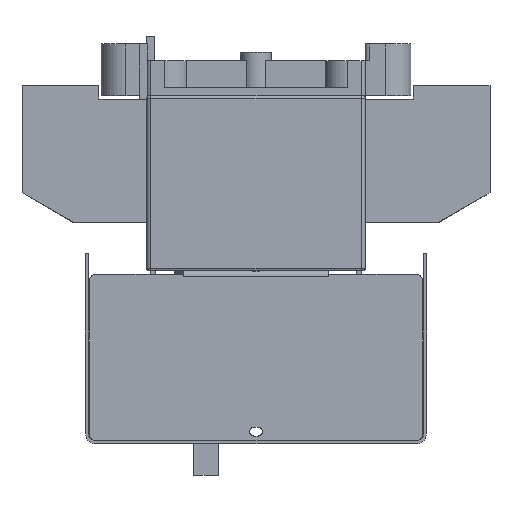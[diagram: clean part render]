
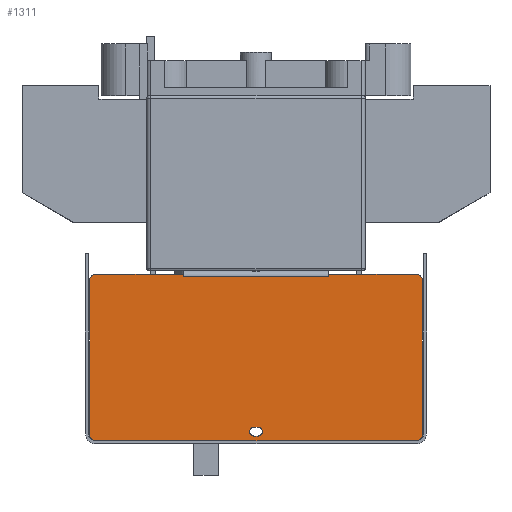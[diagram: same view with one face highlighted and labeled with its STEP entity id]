
A CAD part, left-side view. The second image highlights one B-rep face of the part: STEP entity #1311.
In plain terms, the highlighted planar face has unit normal (-1, 0, 0).
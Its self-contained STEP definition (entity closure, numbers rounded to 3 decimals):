
#170=FACE_BOUND('',#4569,.T.);
#171=FACE_BOUND('',#4570,.T.);
#1311=ADVANCED_FACE('',(#170,#171),#2299,.T.);
#2299=PLANE('',#24300);
#4569=EDGE_LOOP('',(#9427,#9428,#9429,#9430,#9431,#9432,#9433,#9434,#9435,
#9436,#9437,#9438,#9439,#9440));
#4570=EDGE_LOOP('',(#9441,#9442,#9443,#9444));
#5663=CIRCLE('',#24278,2.1);
#5665=CIRCLE('',#24282,2.1);
#5667=CIRCLE('',#24286,3.);
#5669=CIRCLE('',#24289,3.);
#5671=CIRCLE('',#24293,3.);
#5673=CIRCLE('',#24297,3.);
#9427=ORIENTED_EDGE('',*,*,#16561,.F.);
#9428=ORIENTED_EDGE('',*,*,#16562,.T.);
#9429=ORIENTED_EDGE('',*,*,#16563,.T.);
#9430=ORIENTED_EDGE('',*,*,#16564,.T.);
#9431=ORIENTED_EDGE('',*,*,#16565,.F.);
#9432=ORIENTED_EDGE('',*,*,#16553,.T.);
#9433=ORIENTED_EDGE('',*,*,#16558,.T.);
#9434=ORIENTED_EDGE('',*,*,#16541,.T.);
#9435=ORIENTED_EDGE('',*,*,#16544,.T.);
#9436=ORIENTED_EDGE('',*,*,#16519,.T.);
#9437=ORIENTED_EDGE('',*,*,#16547,.T.);
#9438=ORIENTED_EDGE('',*,*,#16550,.T.);
#9439=ORIENTED_EDGE('',*,*,#16552,.T.);
#9440=ORIENTED_EDGE('',*,*,#16527,.T.);
#9441=ORIENTED_EDGE('',*,*,#16531,.T.);
#9442=ORIENTED_EDGE('',*,*,#16535,.T.);
#9443=ORIENTED_EDGE('',*,*,#16538,.T.);
#9444=ORIENTED_EDGE('',*,*,#16560,.T.);
#13418=VERTEX_POINT('',#33921);
#13463=VERTEX_POINT('',#34018);
#13747=VERTEX_POINT('',#35109);
#13748=VERTEX_POINT('',#35111);
#13751=VERTEX_POINT('',#35118);
#13752=VERTEX_POINT('',#35120);
#13754=VERTEX_POINT('',#35126);
#13756=VERTEX_POINT('',#35132);
#13759=VERTEX_POINT('',#35139);
#13760=VERTEX_POINT('',#35141);
#13762=VERTEX_POINT('',#35150);
#13764=VERTEX_POINT('',#35156);
#13765=VERTEX_POINT('',#35163);
#13766=VERTEX_POINT('',#35164);
#13769=VERTEX_POINT('',#35178);
#13770=VERTEX_POINT('',#35180);
#13771=VERTEX_POINT('',#35182);
#13772=VERTEX_POINT('',#35184);
#16519=EDGE_CURVE('',#13418,#13463,#19413,.T.);
#16527=EDGE_CURVE('',#13748,#13747,#19420,.T.);
#16531=EDGE_CURVE('',#13752,#13751,#5663,.T.);
#16535=EDGE_CURVE('',#13751,#13754,#19426,.T.);
#16538=EDGE_CURVE('',#13754,#13756,#5665,.T.);
#16541=EDGE_CURVE('',#13760,#13759,#19430,.T.);
#16544=EDGE_CURVE('',#13759,#13418,#5667,.T.);
#16547=EDGE_CURVE('',#13463,#13762,#5669,.T.);
#16550=EDGE_CURVE('',#13762,#13764,#19435,.T.);
#16552=EDGE_CURVE('',#13764,#13748,#5671,.T.);
#16553=EDGE_CURVE('',#13765,#13766,#19436,.T.);
#16558=EDGE_CURVE('',#13766,#13760,#5673,.T.);
#16560=EDGE_CURVE('',#13756,#13752,#19441,.T.);
#16561=EDGE_CURVE('',#13769,#13747,#19442,.T.);
#16562=EDGE_CURVE('',#13769,#13770,#19443,.T.);
#16563=EDGE_CURVE('',#13770,#13771,#19444,.T.);
#16564=EDGE_CURVE('',#13771,#13772,#19445,.T.);
#16565=EDGE_CURVE('',#13765,#13772,#19446,.T.);
#19413=LINE('',#35092,#21983);
#19420=LINE('',#35110,#21990);
#19426=LINE('',#35127,#21996);
#19430=LINE('',#35140,#22000);
#19435=LINE('',#35157,#22005);
#19436=LINE('',#35162,#22006);
#19441=LINE('',#35175,#22011);
#19442=LINE('',#35177,#22012);
#19443=LINE('',#35179,#22013);
#19444=LINE('',#35181,#22014);
#19445=LINE('',#35183,#22015);
#19446=LINE('',#35185,#22016);
#21983=VECTOR('',#28535,1.);
#21990=VECTOR('',#28548,1.);
#21996=VECTOR('',#28562,1.);
#22000=VECTOR('',#28574,1.);
#22005=VECTOR('',#28593,1.);
#22006=VECTOR('',#28602,1.);
#22011=VECTOR('',#28615,1.);
#22012=VECTOR('',#28618,1.);
#22013=VECTOR('',#28619,1.);
#22014=VECTOR('',#28620,1.);
#22015=VECTOR('',#28621,1.);
#22016=VECTOR('',#28622,1.);
#24278=AXIS2_PLACEMENT_3D('',#35119,#28555,#28556);
#24282=AXIS2_PLACEMENT_3D('',#35133,#28568,#28569);
#24286=AXIS2_PLACEMENT_3D('',#35145,#28580,#28581);
#24289=AXIS2_PLACEMENT_3D('',#35151,#28587,#28588);
#24293=AXIS2_PLACEMENT_3D('',#35160,#28598,#28599);
#24297=AXIS2_PLACEMENT_3D('',#35172,#28610,#28611);
#24300=AXIS2_PLACEMENT_3D('',#35186,#28623,#28624);
#28535=DIRECTION('',(0.,-1.,0.));
#28548=DIRECTION('',(0.,1.,0.));
#28555=DIRECTION('',(1.,0.,0.));
#28556=DIRECTION('',(0.,1.,0.));
#28562=DIRECTION('',(0.,-1.,0.));
#28568=DIRECTION('',(1.,0.,0.));
#28569=DIRECTION('',(0.,1.,0.));
#28574=DIRECTION('',(0.,0.,-1.));
#28580=DIRECTION('',(-1.,0.,0.));
#28581=DIRECTION('',(0.,1.,0.));
#28587=DIRECTION('',(-1.,0.,0.));
#28588=DIRECTION('',(0.,1.,0.));
#28593=DIRECTION('',(0.,0.,1.));
#28598=DIRECTION('',(-1.,0.,0.));
#28599=DIRECTION('',(0.,1.,0.));
#28602=DIRECTION('',(0.,1.,0.));
#28610=DIRECTION('',(-1.,0.,0.));
#28611=DIRECTION('',(0.,1.,0.));
#28615=DIRECTION('',(0.,1.,0.));
#28618=DIRECTION('',(0.,0.,1.));
#28619=DIRECTION('',(0.,1.,0.));
#28620=DIRECTION('',(0.,1.,0.));
#28621=DIRECTION('',(0.,1.,0.));
#28622=DIRECTION('',(0.,0.,-1.));
#28623=DIRECTION('',(-1.,0.,0.));
#28624=DIRECTION('',(0.,-1.,0.));
#33921=CARTESIAN_POINT('',(-189.3,77.,-165.8));
#34018=CARTESIAN_POINT('',(-189.3,-77.,-165.8));
#35092=CARTESIAN_POINT('',(-189.3,77.,-165.8));
#35109=CARTESIAN_POINT('',(-189.3,-35.002,-85.8));
#35110=CARTESIAN_POINT('',(-189.3,-77.,-85.8));
#35111=CARTESIAN_POINT('',(-189.3,-77.,-85.8));
#35118=CARTESIAN_POINT('',(-189.3,1.,-159.3));
#35119=CARTESIAN_POINT('',(-189.3,1.,-161.4));
#35120=CARTESIAN_POINT('',(-189.3,1.,-163.5));
#35126=CARTESIAN_POINT('',(-189.3,-1.,-159.3));
#35127=CARTESIAN_POINT('',(-189.3,1.,-159.3));
#35132=CARTESIAN_POINT('',(-189.3,-1.,-163.5));
#35133=CARTESIAN_POINT('',(-189.3,-1.,-161.4));
#35139=CARTESIAN_POINT('',(-189.3,80.,-162.8));
#35140=CARTESIAN_POINT('',(-189.3,80.,-88.8));
#35141=CARTESIAN_POINT('',(-189.3,80.,-88.8));
#35145=CARTESIAN_POINT('',(-189.3,77.,-162.8));
#35150=CARTESIAN_POINT('',(-189.3,-80.,-162.8));
#35151=CARTESIAN_POINT('',(-189.3,-77.,-162.8));
#35156=CARTESIAN_POINT('',(-189.3,-80.,-88.8));
#35157=CARTESIAN_POINT('',(-189.3,-80.,-162.8));
#35160=CARTESIAN_POINT('',(-189.3,-77.,-88.8));
#35162=CARTESIAN_POINT('',(-189.3,-77.,-85.8));
#35163=CARTESIAN_POINT('',(-189.3,35.002,-85.8));
#35164=CARTESIAN_POINT('',(-189.3,77.,-85.8));
#35172=CARTESIAN_POINT('',(-189.3,77.,-88.8));
#35175=CARTESIAN_POINT('',(-189.3,-1.,-163.5));
#35177=CARTESIAN_POINT('',(-189.3,-35.002,-162.8));
#35178=CARTESIAN_POINT('',(-189.3,-35.002,-86.8));
#35179=CARTESIAN_POINT('',(-189.3,77.,-86.8));
#35180=CARTESIAN_POINT('',(-189.3,-35.,-86.8));
#35181=CARTESIAN_POINT('',(-189.3,50.5,-86.8));
#35182=CARTESIAN_POINT('',(-189.3,35.,-86.8));
#35183=CARTESIAN_POINT('',(-189.3,77.,-86.8));
#35184=CARTESIAN_POINT('',(-189.3,35.002,-86.8));
#35185=CARTESIAN_POINT('',(-189.3,35.002,-162.8));
#35186=CARTESIAN_POINT('',(-189.3,77.,-162.8));
